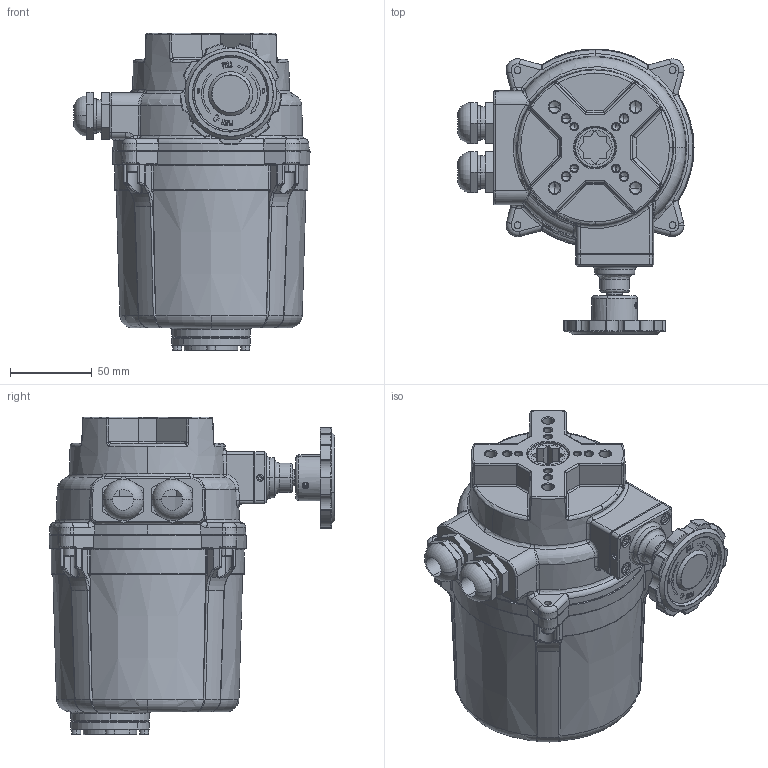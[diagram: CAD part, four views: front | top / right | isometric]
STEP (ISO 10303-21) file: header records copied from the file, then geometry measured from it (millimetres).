
FILE_DESCRIPTION (( 'STEP AP203' ), '1' );
FILE_NAME ('VTM-1軞蚾20.6.17.STEP', '2021-01-20T05:35:19', ( '' ), ( '' ), 'SwSTEP 2.0', 'SolidWorks 2018', '' );
FILE_SCHEMA (( 'CONFIG_CONTROL_DESIGN' ));
Length unit declared in the file: millimetre
Products named in the file (24): socket head cap screw_iso_ISO 4762 M5 x 16 --- 16C; 粣杶3; 忒雄謫蟀諉粣; VTM-1狟褲; 耜裔; 遠倛梓泂; 葩璃 錨璃12^VTM-1軞蚾20.6.17; 笢陑堤粣; 葩璃 錨璃13^VTM-1軞蚾20.6.17; o-rings series g gb_GB-T 3452.1 25x1.8-G; hexagon socket head cap screws gb_GB_FASTENER_SCREWS_HSHCS M4X8-N; o-rings series g gb_GB-T 3452.1 6.7x1.8-G; hex socket set screws with flat point gb_GB_FASTENER_SCREWS_HSFP M5X5-S; 欶裔_す裔; hexagon socket head cap screws gb_GB_FASTENER_SCREWS_HSHCS M3X8-S; 忒謫-蜊; VTM-1奻裔; 球; 狟裔耜躇猾; M20-1.5滅阨諉芛; hexagon socket head cap screws gb_GB_FASTENER_SCREWS_HSHCS M5X12-N; 脣种; VTM-1軞蚾20.6.17; o-rings series g gb_GB-T 3452.1 109x2.65-G
Assembly tree (36 placements, depth 2):
  VTM-1軞蚾20.6.17
    VTM-1狟褲
    粣杶3
    笢陑堤粣
    socket head cap screw_iso_ISO 4762 M5 x 16 --- 16C  x2
    狟裔耜躇猾
    耜裔
    球
    忒雄謫蟀諉粣
    忒謫-蜊
    脣种
    遠倛梓泂
    hex socket set screws with flat point gb_GB_FASTENER_SCREWS_HSFP M5X5-S
    葩璃 錨璃12^VTM-1軞蚾20.6.17
    葩璃 錨璃13^VTM-1軞蚾20.6.17
    hexagon socket head cap screws gb_GB_FASTENER_SCREWS_HSHCS M4X8-N  x4
    o-rings series g gb_GB-T 3452.1 6.7x1.8-G  x2
    VTM-1奻裔
    hexagon socket head cap screws gb_GB_FASTENER_SCREWS_HSHCS M5X12-N  x4
    M20-1.5滅阨諉芛  x2
    o-rings series g gb_GB-T 3452.1 109x2.65-G
    o-rings series g gb_GB-T 3452.1 25x1.8-G  x2
    欶裔_す裔
    hexagon socket head cap screws gb_GB_FASTENER_SCREWS_HSHCS M3X8-S  x4
Bounding box: 144.28 x 174.7 x 194 mm (x, y, z)
Volume: 541378.7 mm3; surface area: 242188.5 mm2
Topology: 36 solids, 41 shells, 3256 faces, 7699 edges, 4480 vertices
Faces by surface type: cylinder 850, cone 793, plane 700, bspline 568, torus 276, sphere 69
Entity records: 120026 total; most frequent: CARTESIAN_POINT 62976, ORIENTED_EDGE 11874, DIRECTION 10622, EDGE_CURVE 5937, AXIS2_PLACEMENT_3D 4276, VERTEX_POINT 3586, EDGE_LOOP 2659, ADVANCED_FACE 2499
